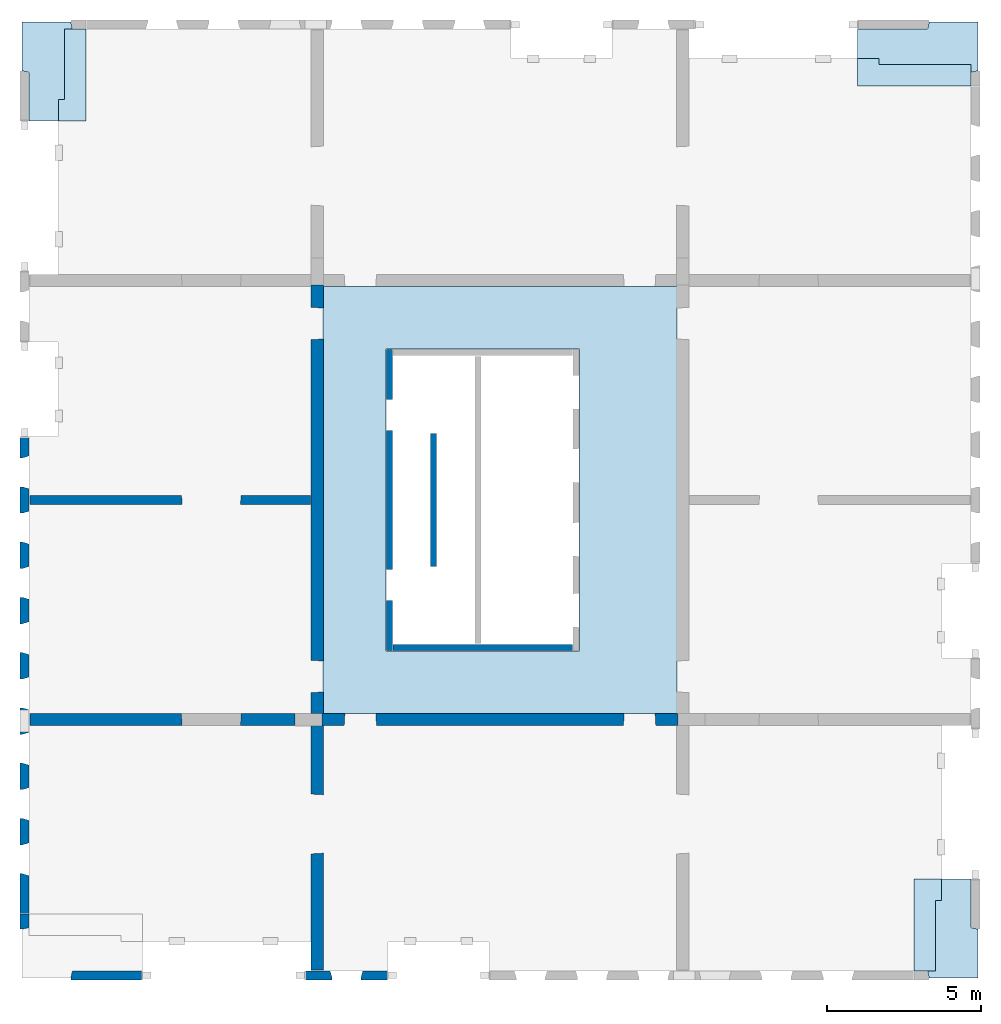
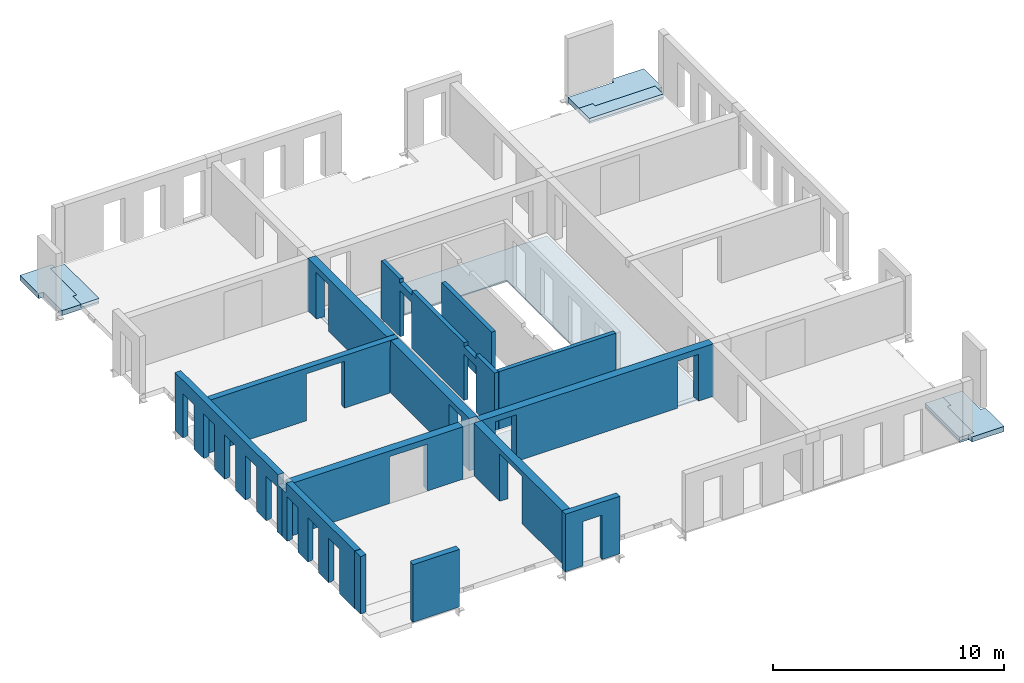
# One storey, part 2 of 4: 13 walls, 7 slabs, 27 openings.
"""IFC2X3 building model written with IfcOpenShell, lengths in millimetres."""

from ifc_helpers import new_model, entity, si_unit, converted_unit, derived_unit, direction, frame, frame_2d, origin, origin_2d_with_axis, place, context, subcontext, project, spatial, polyline, rectangle, outline, extrude, faceted_brep, material, layer, layer_set, layer_usage, type_object, element, save


model = new_model("IFC2X3")

# Units and contexts
model_context = context("Model", 3, precision=0.01, world=origin(), true_north=direction((6.12303176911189e-17, 1.0)))
body_context = subcontext(model_context, "Body", "Model", "MODEL_VIEW")
ifc_project = project(units=[si_unit("LENGTHUNIT", "METRE", prefix="MILLI"), si_unit("AREAUNIT", "SQUARE_METRE"), si_unit("VOLUMEUNIT", "CUBIC_METRE"), converted_unit("PLANEANGLEUNIT", "DEGREE", entity("IfcRatioMeasure", 0.0174532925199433), si_unit("PLANEANGLEUNIT", "RADIAN"), dimensions=[0, 0, 0, 0, 0, 0, 0]), si_unit("MASSUNIT", "GRAM", prefix="KILO"), derived_unit("MASSDENSITYUNIT", [(si_unit("MASSUNIT", "GRAM", prefix="KILO"), 1), (si_unit("LENGTHUNIT", "METRE"), -3)]), si_unit("TIMEUNIT", "SECOND"), si_unit("FREQUENCYUNIT", "HERTZ"), si_unit("THERMODYNAMICTEMPERATUREUNIT", "DEGREE_CELSIUS"), derived_unit("THERMALTRANSMITTANCEUNIT", [(si_unit("MASSUNIT", "GRAM", prefix="KILO"), 1), (si_unit("THERMODYNAMICTEMPERATUREUNIT", "KELVIN"), -1), (si_unit("TIMEUNIT", "SECOND"), -3)]), derived_unit("VOLUMETRICFLOWRATEUNIT", [(si_unit("LENGTHUNIT", "METRE"), 3), (si_unit("TIMEUNIT", "SECOND"), -1)]), si_unit("ELECTRICCURRENTUNIT", "AMPERE"), si_unit("ELECTRICVOLTAGEUNIT", "VOLT"), si_unit("POWERUNIT", "WATT"), si_unit("FORCEUNIT", "NEWTON", prefix="KILO"), si_unit("ILLUMINANCEUNIT", "LUX"), si_unit("LUMINOUSFLUXUNIT", "LUMEN"), si_unit("LUMINOUSINTENSITYUNIT", "CANDELA"), derived_unit("USERDEFINED", [(si_unit("MASSUNIT", "GRAM", prefix="KILO"), -1), (si_unit("LENGTHUNIT", "METRE"), -2), (si_unit("TIMEUNIT", "SECOND"), 3), (si_unit("LUMINOUSFLUXUNIT", "LUMEN"), 1)]), derived_unit("LINEARVELOCITYUNIT", [(si_unit("LENGTHUNIT", "METRE"), 1), (si_unit("TIMEUNIT", "SECOND"), -1)]), si_unit("PRESSUREUNIT", "PASCAL"), derived_unit("USERDEFINED", [(si_unit("LENGTHUNIT", "METRE"), -2), (si_unit("MASSUNIT", "GRAM", prefix="KILO"), 1), (si_unit("TIMEUNIT", "SECOND"), -2)])], contexts=[model_context])

# Site, building, storey
site_placement = place(None, origin())
site = spatial("IfcSite", under=ifc_project, at=site_placement, Name="Default", CompositionType="ELEMENT")
building_placement = place(site_placement, origin())
building = spatial("IfcBuilding", under=site, at=building_placement, Name="niet gebruiken", CompositionType="ELEMENT")
storey_placement = place(building_placement, frame((0.0, 0.0, 70020.0)))
storey = spatial("IfcBuildingStorey", under=building, at=storey_placement, Name="22 tweeëntwintigste verdieping", CompositionType="ELEMENT", Elevation=70020.0000000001)

# Slabs
ifc_material_1 = material(Name="NLRS_f2_beton prefab")
ifc_layer_1 = layer(ifc_material_1, 270.0)
ifc_layer_set_1 = layer_set([ifc_layer_1], Name="Floor:NLRS_23.22_FL_beton prefab d=270 3D element_gen")
ifc_layer_usage_1 = layer_usage(ifc_layer_set_1, "AXIS3", "POSITIVE", 0.0)
slab_1_placement = place(storey_placement, origin())
element("IfcSlab", 1, at=slab_1_placement, inside=storey, material=ifc_layer_usage_1, Name="Floor:NLRS_23.22_FL_beton prefab d=270 3D element_gen", ObjectType="Floor:NLRS_23.22_FL_beton prefab d=270 3D element_gen", PredefinedType="LANDING", context=body_context, shape_type="SweptSolid", body=[
    extrude(outline(polyline([(-322.675940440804, -982.471394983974), (1267.47139498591, -982.471394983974), (1267.47139498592, 607.675940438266), (1034.47139498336, 655.152429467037), (1034.47139498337, 1100.5286050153), (-1955.52860501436, 1100.52860501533), (-1955.52860501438, -749.471394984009), (-370.152429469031, -749.471394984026), (-322.675940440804, -982.471394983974)])), frame((127169.471394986, 31795.5286050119, -90.0), z_axis=(0.0, 0.0, -1.0), x_axis=(0.0, 1.0, 0.0)), (0.0, 0.0, 1.0), 269.999999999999),
])
ifc_material_2 = material(Name="NLRS_f2_beton ihwg")
ifc_layer_2 = layer(ifc_material_2, 170.0)
ifc_layer_set_2 = layer_set([ifc_layer_2], Name="Floor:NLRS_23.21_FL_beton ihwg d=170_gen")
ifc_layer_usage_2 = layer_usage(ifc_layer_set_2, "AXIS3", "POSITIVE", 0.0)
slab_2_placement = place(storey_placement, origin())
element("IfcSlab", 2, at=slab_2_placement, inside=storey, material=ifc_layer_usage_2, Name="Floor:NLRS_23.21_FL_beton ihwg d=170_gen", ObjectType="Floor:NLRS_23.21_FL_beton ihwg d=170_gen", PredefinedType="FLOOR", context=body_context, shape_type="SweptSolid", body=[
    extrude(outline(polyline([(-1230.0, -366.666666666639), (-530.0, -366.666666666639), (-530.0, -166.66666666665), (1760.0, -166.666666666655), (1760.0, 533.333333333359), (-1230.0, 533.333333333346), (-1230.0, -366.666666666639)])), frame((127736.666666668, 31070.0, -90.0), z_axis=(0.0, 0.0, -1.0), x_axis=(0.0, 1.0, 0.0)), (0.0, 0.0, 1.0), 169.999999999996),
])
ifc_layer_usage_3 = layer_usage(ifc_layer_set_1, "AXIS3", "POSITIVE", 0.0)
slab_3_placement = place(storey_placement, origin())
element("IfcSlab", 3, at=slab_3_placement, inside=storey, material=ifc_layer_usage_3, Name="Floor:NLRS_23.22_FL_beton prefab d=270 3D element_gen", ObjectType="Floor:NLRS_23.22_FL_beton prefab d=270 3D element_gen", PredefinedType="LANDING", context=body_context, shape_type="SweptSolid", body=[
    extrude(outline(polyline([(-1034.47139498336, -1100.52860501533), (1955.52860501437, -1100.52860501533), (1955.52860501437, 749.471394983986), (370.152429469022, 749.471394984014), (322.675940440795, 982.471394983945), (-1267.47139498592, 982.471394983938), (-1267.47139498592, -607.675940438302), (-1034.47139498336, -655.152429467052), (-1034.47139498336, -1100.52860501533)])), frame((156330.528605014, 3204.47139498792, -90.0), z_axis=(0.0, 0.0, -1.0), x_axis=(0.0, 1.0, 0.0)), (0.0, 0.0, 1.0), 269.999999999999),
])
ifc_layer_usage_4 = layer_usage(ifc_layer_set_2, "AXIS3", "POSITIVE", 0.0)
slab_4_placement = place(storey_placement, origin())
element("IfcSlab", 4, at=slab_4_placement, inside=storey, material=ifc_layer_usage_4, Name="Floor:NLRS_23.21_FL_beton ihwg d=170_gen", ObjectType="Floor:NLRS_23.21_FL_beton ihwg d=170_gen", PredefinedType="FLOOR", context=body_context, shape_type="SweptSolid", body=[
    extrude(outline(polyline([(-1760.0, -533.33333333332), (1230.0, -533.33333333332), (1230.0, 366.666666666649), (530.0, 366.666666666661), (530.0, 166.666666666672), (-1760.0, 166.666666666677), (-1760.0, -533.33333333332)])), frame((155763.333333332, 3930.0, -90.0), z_axis=(0.0, 0.0, -1.0), x_axis=(0.0, 1.0, 0.0)), (0.0, 0.0, 1.0), 169.999999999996),
])
ifc_layer_usage_5 = layer_usage(ifc_layer_set_1, "AXIS3", "POSITIVE", 0.0)
slab_5_placement = place(storey_placement, origin())
element("IfcSlab", 5, at=slab_5_placement, inside=storey, material=ifc_layer_usage_5, Name="Floor:NLRS_23.22_FL_beton prefab d=270 3D element_gen", ObjectType="Floor:NLRS_23.22_FL_beton prefab d=270 3D element_gen", PredefinedType="LANDING", context=body_context, shape_type="SweptSolid", body=[
    extrude(outline(polyline([(-1100.52860501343, -2480.52860501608), (749.471394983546, -2480.52860501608), (749.471394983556, -195.152429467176), (982.471394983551, -147.675940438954), (982.471394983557, 1442.47139498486), (-607.675940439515, 1442.47139498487), (-655.152429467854, 1209.47139498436), (-1100.52860501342, 1209.47139498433), (-1100.52860501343, -2480.52860501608)])), frame((155870.528605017, 32080.5286050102, -90.0), z_axis=(0.0, 0.0, -1.0), x_axis=(0.0, 1.0, 0.0)), (0.0, 0.0, 1.0), 269.999999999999),
])
ifc_layer_usage_6 = layer_usage(ifc_layer_set_2, "AXIS3", "POSITIVE", 0.0)
slab_6_placement = place(storey_placement, origin())
element("IfcSlab", 6, at=slab_6_placement, inside=storey, material=ifc_layer_usage_6, Name="Floor:NLRS_23.21_FL_beton ihwg d=170_gen", ObjectType="Floor:NLRS_23.21_FL_beton ihwg d=170_gen", PredefinedType="FLOOR", context=body_context, shape_type="SweptSolid", body=[
    extrude(outline(polyline([(-533.333333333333, -1463.33333333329), (366.666666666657, -1463.33333333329), (366.666666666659, -763.333333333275), (166.66666666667, -763.333333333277), (166.666666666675, 2226.66666666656), (-533.333333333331, 2226.66666666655), (-533.333333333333, -1463.33333333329)])), frame((154853.333333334, 31513.3333333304, -90.0), z_axis=(0.0, 0.0, -1.0), x_axis=(0.0, 1.0, 0.0)), (0.0, 0.0, 1.0), 169.999999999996),
])

# Slab, opening
ifc_layer_3 = layer(ifc_material_1, 60.0)
ifc_layer_set_3 = layer_set([ifc_layer_3], Name="Floor:NLRS_23.21_FL_breedplaat d=60_gen")
ifc_layer_usage_7 = layer_usage(ifc_layer_set_3, "AXIS3", "POSITIVE", 0.0)
slab_7_placement = place(storey_placement, frame((135990.0, 10540.0, -320.0)))
slab_7 = element("IfcSlab", 7, at=slab_7_placement, inside=storey, material=ifc_layer_usage_7, Name="Floor:NLRS_23.21_FL_breedplaat d=60_gen", ObjectType="Floor:NLRS_23.21_FL_breedplaat d=60_gen", PredefinedType="FLOOR", context=body_context, shape_type="SweptSolid", body=[
    extrude(rectangle(XDim=13919.9999999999, YDim=11520.0, at=frame_2d((0.0, 0.0), x_axis=(0.0, -1.0))), frame((5760.0, 6960.0, 60.0), z_axis=(0.0, 0.0, -1.0), x_axis=(-1.0, 0.0, 0.0)), (0.0, 0.0, 1.0), 60.0000000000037),
])
opening_1_placement = place(slab_7_placement, frame((5200.0, 6960.0, 60.0)))
element("IfcOpeningElement", 8, at=opening_1_placement, cuts=slab_7, Name="Floor:NLRS_23.21_FL_breedplaat d=60_gen:2", ObjectType="Opening", context=body_context, shape_type="SweptSolid", body=[
    extrude(rectangle(XDim=9820.0, YDim=6299.99999999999, at=origin_2d_with_axis()), frame((0.0, 0.0, 0.0), z_axis=(0.0, 0.0, -1.0), x_axis=(0.0, -1.0, 0.0)), (0.0, 0.0, 1.0), 60.0000000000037),
])

# Wall, openings
ifc_layer_4 = layer(ifc_material_1, 200.0)
ifc_layer_set_4 = layer_set([ifc_layer_4], Name="Basic Wall:NLRS_22.21_WA_beton prefab d=200_gen")
ifc_layer_usage_8 = layer_usage(ifc_layer_set_4, "AXIS2", "NEGATIVE", 100.0)
wall_type_1 = type_object("IfcWallType", Name="Basic Wall:NLRS_22.21_WA_beton prefab d=200_gen", PredefinedType="STANDARD", material=ifc_layer_set_4)
wall_1_placement = place(storey_placement, frame((138150.0, 22400.0, -50.0), z_axis=(0.0, 0.0, 1.0), x_axis=(0.0, -1.0, 0.0)))
wall_1 = element("IfcWallStandardCase", 9, at=wall_1_placement, inside=storey, type_object=wall_type_1, material=ifc_layer_usage_8, Name="Basic Wall:NLRS_22.21_WA_beton prefab d=200_gen", ObjectType="Basic Wall:NLRS_22.21_WA_beton prefab d=200_gen", context=body_context, shape_type="SweptSolid", body=[
    extrude(rectangle(XDim=9800.0, YDim=199.999999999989, at=frame_2d((4900.0, 3.76587649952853e-13), x_axis=(-1.0, 0.0))), origin(), (0.0, 0.0, 1.0), 3040.0),
])
opening_2_placement = place(wall_1_placement, origin())
element("IfcOpeningElement", 10, at=opening_2_placement, cuts=wall_1, Name="Basic Wall:NLRS_22.21_WA_beton prefab d=200_gen", ObjectType="Opening", context=body_context, shape_type="SweptSolid", body=[
    extrude(rectangle(XDim=199.999999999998, YDim=1044.0, at=frame_2d((4.33431068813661e-12, 0.0), x_axis=(1.0, 0.0))), frame((7672.0, -100.0, 2940.0), z_axis=(0.0, 1.0, 0.0), x_axis=(0.0, 0.0, -1.0)), (0.0, 0.0, 1.0), 199.999999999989),
])
opening_3_placement = place(wall_1_placement, origin())
element("IfcOpeningElement", 11, at=opening_3_placement, cuts=wall_1, Name="Basic Wall:NLRS_22.21_WA_beton prefab d=200_gen", ObjectType="Opening", context=body_context, shape_type="SweptSolid", body=[
    extrude(rectangle(XDim=199.999999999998, YDim=1044.0, at=frame_2d((4.33431068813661e-12, 2.1600499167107e-12), x_axis=(1.0, 0.0))), frame((2128.0, -100.0, 2940.0), z_axis=(0.0, 1.0, 0.0), x_axis=(0.0, 0.0, -1.0)), (0.0, 0.0, 1.0), 199.999999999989),
])
opening_4_placement = place(wall_1_placement, origin())
element("IfcOpeningElement", 12, at=opening_4_placement, cuts=wall_1, Name="Basic Wall:NLRS_22.21_WA_beton prefab d=200_gen", ObjectType="Opening", context=body_context, shape_type="SweptSolid", body=[
    extrude(rectangle(XDim=2435.00000000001, YDim=1015.99999999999, at=frame_2d((-4.32009983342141e-12, 1.10844666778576e-12), x_axis=(1.0, 0.0))), frame((7672.0, -100.0, 1217.50000000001), z_axis=(0.0, 1.0, 0.0), x_axis=(0.0, 0.0, -1.0)), (0.0, 0.0, 1.0), 199.999999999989),
])
opening_5_placement = place(wall_1_placement, origin())
element("IfcOpeningElement", 13, at=opening_5_placement, cuts=wall_1, Name="Basic Wall:NLRS_22.21_WA_beton prefab d=200_gen", ObjectType="Opening", context=body_context, shape_type="SweptSolid", body=[
    extrude(rectangle(XDim=2435.00000000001, YDim=1015.99999999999, at=frame_2d((-4.32009983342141e-12, -2.18847162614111e-12), x_axis=(1.0, 0.0))), frame((2128.0, -100.0, 1217.50000000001), z_axis=(0.0, 1.0, 0.0), x_axis=(0.0, 0.0, -1.0)), (0.0, 0.0, 1.0), 199.999999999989),
])

# Walls
ifc_layer_usage_9 = layer_usage(ifc_layer_set_4, "AXIS2", "NEGATIVE", 100.0)
wall_2_placement = place(storey_placement, frame((139590.0, 19660.0, -50.0), z_axis=(0.0, 0.0, 1.0), x_axis=(0.0, -1.0, 0.0)))
element("IfcWallStandardCase", 14, at=wall_2_placement, inside=storey, type_object=wall_type_1, material=ifc_layer_usage_9, Name="Basic Wall:NLRS_22.21_WA_beton prefab d=200_gen", ObjectType="Basic Wall:NLRS_22.21_WA_beton prefab d=200_gen", context=body_context, shape_type="SweptSolid", body=[
    extrude(rectangle(XDim=4320.00000000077, YDim=199.999999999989, at=frame_2d((2160.00000000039, 0.0), x_axis=(-1.0, 0.0))), origin(), (0.0, 0.0, 1.0), 3040.0),
])
ifc_layer_usage_10 = layer_usage(ifc_layer_set_4, "AXIS2", "NEGATIVE", 100.0)
wall_3_placement = place(storey_placement, frame((138270.0, 12700.0, -50.0)))
element("IfcWallStandardCase", 15, at=wall_3_placement, inside=storey, type_object=wall_type_1, material=ifc_layer_usage_10, Name="Basic Wall:NLRS_22.21_WA_beton prefab d=200_gen", ObjectType="Basic Wall:NLRS_22.21_WA_beton prefab d=200_gen", context=body_context, shape_type="SweptSolid", body=[
    extrude(rectangle(XDim=5839.99999999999, YDim=199.999999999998, at=frame_2d((2919.99999999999, -6.82121026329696e-13), x_axis=(-1.0, 0.0))), origin(), (0.0, 0.0, 1.0), 3040.0),
])

# Wall, openings
ifc_layer_5 = layer(ifc_material_1, 300.0)
ifc_layer_set_5 = layer_set([ifc_layer_5], Name="Basic Wall:NLRS_22.21_WA_beton prefab d=300_gen")
ifc_layer_usage_11 = layer_usage(ifc_layer_set_5, "AXIS2", "NEGATIVE", 150.0)
wall_type_2 = type_object("IfcWallType", Name="Basic Wall:NLRS_22.21_WA_beton prefab d=300_gen", PredefinedType="STANDARD", material=ifc_layer_set_5)
wall_4_placement = place(storey_placement, frame((126440.0, 17500.0, -70.0)))
wall_4 = element("IfcWallStandardCase", 16, at=wall_4_placement, inside=storey, type_object=wall_type_2, material=ifc_layer_usage_11, Name="Basic Wall:NLRS_22.21_WA_beton prefab d=300_gen", ObjectType="Basic Wall:NLRS_22.21_WA_beton prefab d=300_gen", context=body_context, shape_type="SweptSolid", body=[
    extrude(rectangle(XDim=9559.9999999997, YDim=300.000000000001, at=frame_2d((4779.99999999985, -5.54223333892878e-13), x_axis=(-1.0, 0.0))), origin(), (0.0, 0.0, 1.0), 2769.99999999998),
])
opening_6_placement = place(wall_4_placement, frame((4942.0, -150.0, 0.0)))
element("IfcOpeningElement", 17, at=opening_6_placement, cuts=wall_4, Name="Basic Wall:NLRS_22.21_WA_beton prefab d=300_gen", ObjectType="Opening", context=body_context, shape_type="Brep", body=[
    faceted_brep([(1918.0, 0.0, 2470.0), (18.0, 0.0, 2470.0), (18.0, 0.0, 0.0), (1918.0, 0.0, 0.0), (1936.0, 300.0, 2488.0), (1936.0, 300.0, 0.0), (0.0, 300.0, 0.0), (0.0, 300.0, 2488.0)], [[[0, 1, 2, 3]], [[4, 5, 6, 7]], [[4, 7, 1, 0]], [[7, 6, 2, 1]], [[6, 5, 3, 2]], [[5, 4, 0, 3]]]),
])
opening_7_placement = place(wall_4_placement, origin())
element("IfcOpeningElement", 18, at=opening_7_placement, cuts=wall_4, Name="Basic Wall:NLRS_22.21_WA_beton prefab d=300_gen", ObjectType="Opening", context=body_context, shape_type="SweptSolid", body=[
    extrude(rectangle(XDim=2439.99999999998, YDim=420.000000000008, at=frame_2d((0.0, -8.64019966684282e-12), x_axis=(0.0, 1.0))), frame((9350.0, 150.0, 1220.0), z_axis=(0.0, -1.0, 0.0), x_axis=(1.0, 0.0, 0.0)), (0.0, 0.0, 1.0), 300.0),
])

# Wall, opening
ifc_layer_6 = layer(ifc_material_1, 400.0)
ifc_layer_set_6 = layer_set([ifc_layer_6], Name="Basic Wall:NLRS_22.21_WA_beton prefab d=400_gen")
ifc_layer_usage_12 = layer_usage(ifc_layer_set_6, "AXIS2", "NEGATIVE", 200.0)
wall_type_3 = type_object("IfcWallType", Name="Basic Wall:NLRS_22.21_WA_beton prefab d=400_gen", PredefinedType="STANDARD", material=ifc_layer_set_6)
wall_5_placement = place(storey_placement, frame((135800.0, 10150.0, -70.0), z_axis=(0.0, 0.0, 1.0), x_axis=(0.0, -1.0, 0.0)))
wall_5 = element("IfcWallStandardCase", 19, at=wall_5_placement, inside=storey, type_object=wall_type_3, material=ifc_layer_usage_12, Name="Basic Wall:NLRS_22.21_WA_beton prefab d=400_gen", ObjectType="Basic Wall:NLRS_22.21_WA_beton prefab d=400_gen", context=body_context, shape_type="SweptSolid", body=[
    extrude(rectangle(XDim=7959.99999999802, YDim=400.000000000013, at=frame_2d((3979.99999999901, 4.54747350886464e-13), x_axis=(-1.0, 0.0))), origin(), (0.0, 0.0, 1.0), 2770.00000000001),
])
opening_8_placement = place(wall_5_placement, frame((4174.0, -200.0, 0.0)))
element("IfcOpeningElement", 20, at=opening_8_placement, cuts=wall_5, Name="Basic Wall:NLRS_22.21_WA_beton prefab d=400_gen", ObjectType="Opening", context=body_context, shape_type="Brep", body=[
    faceted_brep([(-24.0, 400.0, 2470.0), (-24.0, 400.0, 0.0), (-1924.0, 400.0, 0.0), (-1924.0, 400.0, 2470.0), (0.0, 0.0, 2494.0), (-1948.0, 0.0, 2494.0), (-1948.0, 0.0, 0.0), (0.0, 0.0, 0.0)], [[[0, 1, 2, 3]], [[4, 5, 6, 7]], [[4, 0, 3, 5]], [[5, 3, 2, 6]], [[6, 2, 1, 7]], [[7, 1, 0, 4]]]),
])

# Wall, openings
ifc_layer_usage_13 = layer_usage(ifc_layer_set_6, "AXIS2", "NEGATIVE", 200.0)
wall_6_placement = place(storey_placement, frame((135948.750788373, 10350.0, -70.0)))
wall_6 = element("IfcWallStandardCase", 21, at=wall_6_placement, inside=storey, type_object=wall_type_3, material=ifc_layer_usage_13, Name="Basic Wall:NLRS_22.21_WA_beton prefab d=400_gen", ObjectType="Basic Wall:NLRS_22.21_WA_beton prefab d=400_gen", context=body_context, shape_type="SweptSolid", body=[
    extrude(rectangle(XDim=11601.2492116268, YDim=400.0, at=frame_2d((5800.62460581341, 1.70530256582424e-13), x_axis=(-1.0, 0.0))), origin(), (0.0, 0.0, 1.0), 2770.00000000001),
])
opening_9_placement = place(wall_6_placement, frame((727.249211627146, -200.0, 0.0)))
element("IfcOpeningElement", 22, at=opening_9_placement, cuts=wall_6, Name="Basic Wall:NLRS_22.21_WA_beton prefab d=400_gen", ObjectType="Opening", context=body_context, shape_type="Brep", body=[
    faceted_brep([(0.0, 0.0, 2472.0), (24.0, 400.0, 2448.0), (24.0, 400.0, 0.0), (0.0, 0.0, 0.0), (1030.0, 400.0, 0.0), (1054.0, 0.0, 0.0), (1030.0, 400.0, 2448.0), (1054.0, 0.0, 2472.0)], [[[0, 1, 2, 3]], [[3, 2, 4, 5]], [[6, 4, 2, 1]], [[7, 0, 3, 5]], [[7, 6, 1, 0]], [[5, 4, 6, 7]]]),
])
opening_10_placement = place(wall_6_placement, frame((9821.24921162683, -200.0, 0.0)))
element("IfcOpeningElement", 23, at=opening_10_placement, cuts=wall_6, Name="Basic Wall:NLRS_22.21_WA_beton prefab d=400_gen", ObjectType="Opening", context=body_context, shape_type="Brep", body=[
    faceted_brep([(0.0, 0.0, 2472.0), (24.0, 400.0, 2448.0), (24.0, 400.0, 0.0), (0.0, 0.0, 0.0), (1030.0, 400.0, 0.0), (1054.0, 0.0, 0.0), (1030.0, 400.0, 2448.0), (1054.0, 0.0, 2472.0)], [[[0, 1, 2, 3]], [[3, 2, 4, 5]], [[6, 4, 2, 1]], [[7, 0, 3, 5]], [[7, 6, 1, 0]], [[5, 4, 6, 7]]]),
])

# Wall, opening
ifc_layer_usage_14 = layer_usage(ifc_layer_set_6, "AXIS2", "NEGATIVE", 200.0)
wall_7_placement = place(storey_placement, frame((126440.0, 10350.0, -70.0)))
wall_7 = element("IfcWallStandardCase", 24, at=wall_7_placement, inside=storey, type_object=wall_type_3, material=ifc_layer_usage_14, Name="Basic Wall:NLRS_22.21_WA_beton prefab d=400_gen", ObjectType="Basic Wall:NLRS_22.21_WA_beton prefab d=400_gen", context=body_context, shape_type="SweptSolid", body=[
    extrude(rectangle(XDim=8628.75078837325, YDim=400.0, at=frame_2d((4314.37539418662, -2.8421709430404e-13), x_axis=(-1.0, 0.0))), origin(), (0.0, 0.0, 1.0), 2770.00000000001),
])
opening_11_placement = place(wall_7_placement, frame((4936.0, -200.0, 0.0)))
element("IfcOpeningElement", 25, at=opening_11_placement, cuts=wall_7, Name="Basic Wall:NLRS_22.21_WA_beton prefab d=400_gen", ObjectType="Opening", context=body_context, shape_type="Brep", body=[
    faceted_brep([(1924.0, 0.0, 2470.0), (24.0, 0.0, 2470.0), (24.0, 0.0, 0.0), (1924.0, 0.0, 0.0), (1948.0, 400.0, 2494.0), (1948.0, 400.0, 0.0), (0.0, 400.0, 0.0), (0.0, 400.0, 2494.0)], [[[0, 1, 2, 3]], [[4, 5, 6, 7]], [[4, 7, 1, 0]], [[7, 6, 2, 1]], [[6, 5, 3, 2]], [[5, 4, 0, 3]]]),
])

# Wall, openings
ifc_layer_usage_15 = layer_usage(ifc_layer_set_6, "AXIS2", "NEGATIVE", 200.0)
wall_8_placement = place(storey_placement, frame((135800.0, 24500.0, -70.0), z_axis=(0.0, 0.0, 1.0), x_axis=(0.0, -1.0, 0.0)))
wall_8 = element("IfcWallStandardCase", 26, at=wall_8_placement, inside=storey, type_object=wall_type_3, material=ifc_layer_usage_15, Name="Basic Wall:NLRS_22.21_WA_beton prefab d=400_gen", ObjectType="Basic Wall:NLRS_22.21_WA_beton prefab d=400_gen", context=body_context, shape_type="SweptSolid", body=[
    extrude(rectangle(XDim=13951.193558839, YDim=400.000000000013, at=frame_2d((6975.59677941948, 2.8421709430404e-14), x_axis=(-1.0, 0.0))), origin(), (0.0, 0.0, 1.0), 2770.00000000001),
])
opening_12_placement = place(wall_8_placement, frame((13274.0, -200.0, 0.0)))
element("IfcOpeningElement", 27, at=opening_12_placement, cuts=wall_8, Name="Basic Wall:NLRS_22.21_WA_beton prefab d=400_gen", ObjectType="Opening", context=body_context, shape_type="Brep", body=[
    faceted_brep([(-1054.0, 0.0, 2472.0), (-1030.0, 400.0, 2448.0), (-1030.0, 400.0, 0.0), (-1054.0, 0.0, 0.0), (-24.0, 400.0, 0.0), (0.0, 0.0, 0.0), (-24.0, 400.0, 2448.0), (0.0, 0.0, 2472.0)], [[[0, 1, 2, 3]], [[3, 2, 4, 5]], [[6, 4, 2, 1]], [[7, 0, 3, 5]], [[7, 6, 1, 0]], [[5, 4, 6, 7]]]),
])
opening_13_placement = place(wall_8_placement, frame((1780.0, -200.0, 0.0)))
element("IfcOpeningElement", 28, at=opening_13_placement, cuts=wall_8, Name="Basic Wall:NLRS_22.21_WA_beton prefab d=400_gen", ObjectType="Opening", context=body_context, shape_type="Brep", body=[
    faceted_brep([(-1054.0, 0.0, 2472.0), (-1030.0, 400.0, 2448.0), (-1030.0, 400.0, 0.0), (-1054.0, 0.0, 0.0), (-24.0, 400.0, 0.0), (0.0, 0.0, 0.0), (-24.0, 400.0, 2448.0), (0.0, 0.0, 2472.0)], [[[0, 1, 2, 3]], [[3, 2, 4, 5]], [[6, 4, 2, 1]], [[7, 0, 3, 5]], [[7, 6, 1, 0]], [[5, 4, 6, 7]]]),
])
opening_14_placement = place(wall_8_placement, origin())
element("IfcOpeningElement", 29, at=opening_14_placement, cuts=wall_8, Name="Basic Wall:NLRS_22.21_WA_beton prefab d=400_gen", ObjectType="Opening", context=body_context, shape_type="SweptSolid", body=[
    extrude(rectangle(XDim=350.000000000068, YDim=339.999999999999, at=frame_2d((-1.08002495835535e-12, -4.33431068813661e-12), x_axis=(0.0, 1.0))), frame((7000.0, 200.0, 2595.0), z_axis=(0.0, -1.0, 0.0), x_axis=(-1.0, 0.0, 0.0)), (0.0, 0.0, 1.0), 400.0),
])

# Wall, opening
ifc_layer_7 = layer(ifc_material_1, 300.0)
ifc_layer_set_7 = layer_set([ifc_layer_7], Name="Basic Wall:NLRS_21.21_WA_beton prefab d=300/320_gen")
ifc_layer_usage_16 = layer_usage(ifc_layer_set_7, "AXIS2", "NEGATIVE", 150.0)
wall_type_4 = type_object("IfcWallType", Name="Basic Wall:NLRS_21.21_WA_beton prefab d=300/320_gen", PredefinedType="STANDARD", material=ifc_layer_set_7)
wall_9_placement = place(storey_placement, frame((138110.0, 2020.0, -50.0), z_axis=(0.0, 0.0, 1.0), x_axis=(-1.0, 0.0, 0.0)))
wall_9 = element("IfcWallStandardCase", 30, at=wall_9_placement, inside=storey, type_object=wall_type_4, material=ifc_layer_usage_16, Name="Basic Wall:NLRS_21.21_WA_beton prefab d=300/320_gen", ObjectType="Basic Wall:NLRS_21.21_WA_beton prefab d=300/320_gen", context=body_context, shape_type="SweptSolid", body=[
    extrude(rectangle(XDim=2720.00000000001, YDim=300.0, at=frame_2d((1360.0, -8.5265128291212e-14), x_axis=(-1.0, 0.0))), origin(), (0.0, 0.0, 1.0), 3040.0),
])
opening_15_placement = place(wall_9_placement, frame((1895.0, 150.0, -20.0)))
element("IfcOpeningElement", 31, at=opening_15_placement, cuts=wall_9, Name="Basic Wall:NLRS_21.21_WA_beton prefab d=300/320_gen", ObjectType="Opening", context=body_context, shape_type="Brep", body=[
    faceted_brep([(-1070.0, -300.0, 2405.0), (-1070.0, -300.0, 0.0), (0.0, -300.0, 0.0), (0.0, -300.0, 2405.0), (-65.0, -81.0, 2370.0), (-1005.0, -81.0, 2370.0), (-65.0, -81.0, 0.0), (-1005.0, -81.0, 0.0), (-1005.0, 0.0, 0.0), (-65.0, 0.0, 0.0), (-1005.0, 0.0, 2370.0), (-65.0, 0.0, 2370.0)], [[[0, 1, 2, 3]], [[3, 4, 5, 0]], [[2, 6, 4, 3]], [[1, 7, 8, 9, 6, 2]], [[0, 5, 7, 1]], [[10, 11, 9, 8]], [[10, 5, 4, 11]], [[11, 4, 6, 9]], [[8, 7, 5, 10]]]),
])

# Wall, openings
ifc_layer_usage_17 = layer_usage(ifc_layer_set_7, "AXIS2", "NEGATIVE", 150.0)
wall_10_placement = place(storey_placement, frame((126270.0, 4040.0, -50.0), z_axis=(0.0, 0.0, 1.0), x_axis=(0.0, 1.0, 0.0)))
wall_10 = element("IfcWallStandardCase", 32, at=wall_10_placement, inside=storey, type_object=wall_type_4, material=ifc_layer_usage_17, Name="Basic Wall:NLRS_21.21_WA_beton prefab d=300/320_gen", ObjectType="Basic Wall:NLRS_21.21_WA_beton prefab d=300/320_gen", context=body_context, shape_type="SweptSolid", body=[
    extrude(rectangle(XDim=6249.99999999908, YDim=300.000000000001, at=frame_2d((3124.99999999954, 0.0), x_axis=(-1.0, 0.0))), origin(), (0.0, 0.0, 1.0), 3039.99999999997),
])
opening_16_placement = place(wall_10_placement, frame((1225.0, 150.0, -20.0)))
element("IfcOpeningElement", 33, at=opening_16_placement, cuts=wall_10, Name="Basic Wall:NLRS_21.21_WA_beton prefab d=300/320_gen", ObjectType="Opening", context=body_context, shape_type="Brep", body=[
    faceted_brep([(0.0, -300.0, 2405.0), (0.0, -300.0, 0.0), (1070.0, -300.0, 0.0), (1070.0, -300.0, 2405.0), (1005.0, -81.0, 2370.0), (65.0, -81.0, 2370.0), (1005.0, -81.0, 0.0), (65.0, -81.0, 0.0), (65.0, 0.0, 0.0), (1005.0, 0.0, 0.0), (65.0, 0.0, 2370.0), (1005.0, 0.0, 2370.0)], [[[0, 1, 2, 3]], [[3, 4, 5, 0]], [[2, 6, 4, 3]], [[1, 7, 8, 9, 6, 2]], [[0, 5, 7, 1]], [[10, 11, 9, 8]], [[10, 5, 4, 11]], [[11, 4, 6, 9]], [[8, 7, 5, 10]]]),
])
opening_17_placement = place(wall_10_placement, frame((3025.0, 150.0, -20.0)))
element("IfcOpeningElement", 34, at=opening_17_placement, cuts=wall_10, Name="Basic Wall:NLRS_21.21_WA_beton prefab d=300/320_gen", ObjectType="Opening", context=body_context, shape_type="Brep", body=[
    faceted_brep([(0.0, -300.0, 2405.0), (0.0, -300.0, 0.0), (1070.0, -300.0, 0.0), (1070.0, -300.0, 2405.0), (1005.0, -81.0, 2370.0), (65.0, -81.0, 2370.0), (1005.0, -81.0, 0.0), (65.0, -81.0, 0.0), (65.0, 0.0, 0.0), (1005.0, 0.0, 0.0), (65.0, 0.0, 2370.0), (1005.0, 0.0, 2370.0)], [[[0, 1, 2, 3]], [[3, 4, 5, 0]], [[2, 6, 4, 3]], [[1, 7, 8, 9, 6, 2]], [[0, 5, 7, 1]], [[10, 11, 9, 8]], [[10, 5, 4, 11]], [[11, 4, 6, 9]], [[8, 7, 5, 10]]]),
])
opening_18_placement = place(wall_10_placement, frame((4825.0, 150.0, -20.0)))
element("IfcOpeningElement", 35, at=opening_18_placement, cuts=wall_10, Name="Basic Wall:NLRS_21.21_WA_beton prefab d=300/320_gen", ObjectType="Opening", context=body_context, shape_type="Brep", body=[
    faceted_brep([(0.0, -300.0, 2405.0), (0.0, -300.0, 0.0), (1070.0, -300.0, 0.0), (1070.0, -300.0, 2405.0), (1005.0, -81.0, 2370.0), (65.0, -81.0, 2370.0), (1005.0, -81.0, 0.0), (65.0, -81.0, 0.0), (65.0, 0.0, 0.0), (1005.0, 0.0, 0.0), (65.0, 0.0, 2370.0), (1005.0, 0.0, 2370.0)], [[[0, 1, 2, 3]], [[3, 4, 5, 0]], [[2, 6, 4, 3]], [[1, 7, 8, 9, 6, 2]], [[0, 5, 7, 1]], [[10, 11, 9, 8]], [[10, 5, 4, 11]], [[11, 4, 6, 9]], [[8, 7, 5, 10]]]),
])
opening_19_placement = place(wall_10_placement, origin())
element("IfcOpeningElement", 36, at=opening_19_placement, cuts=wall_10, Name="Basic Wall:NLRS_21.21_WA_beton prefab d=300/320_gen", ObjectType="Opening", context=body_context, shape_type="SweptSolid", body=[
    extrude(rectangle(XDim=534.99999999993, YDim=344.999999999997, at=frame_2d((0.0, 1.08002495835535e-12), x_axis=(1.0, 0.0))), frame((6077.49999999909, 150.0, 2772.50000000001), z_axis=(0.0, -1.0, 0.0), x_axis=(0.0, 0.0, 1.0)), (0.0, 0.0, 1.0), 300.0),
])

# Wall, opening
ifc_layer_usage_18 = layer_usage(ifc_layer_set_7, "AXIS2", "NEGATIVE", 150.0)
wall_11_placement = place(storey_placement, frame((130110.0, 2020.0, -50.0), z_axis=(0.0, 0.0, 1.0), x_axis=(-1.0, 0.0, 0.0)))
wall_11 = element("IfcWallStandardCase", 37, at=wall_11_placement, inside=storey, type_object=wall_type_4, material=ifc_layer_usage_18, Name="Basic Wall:NLRS_21.21_WA_beton prefab d=300/320_gen", ObjectType="Basic Wall:NLRS_21.21_WA_beton prefab d=300/320_gen", context=body_context, shape_type="SweptSolid", body=[
    extrude(rectangle(XDim=2330.00000000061, YDim=300.0, at=frame_2d((1165.00000000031, -5.6843418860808e-14), x_axis=(-1.0, 0.0))), origin(), (0.0, 0.0, 1.0), 3040.0),
])
opening_20_placement = place(wall_11_placement, frame((2330.0, 69.0, 0.0)))
element("IfcOpeningElement", 38, at=opening_20_placement, cuts=wall_11, Name="Basic Wall:NLRS_21.21_WA_beton prefab d=300/320_gen", ObjectType="Opening", context=body_context, shape_type="Brep", body=[
    faceted_brep([(0.0, -319.0, 3040.0), (0.0, 0.0, 3040.0), (-65.0, -319.0, 3040.0), (0.0, -319.0, 0.0), (-65.0, -319.0, 0.0), (0.0, 0.0, 0.0)], [[[0, 1, 2]], [[3, 4, 5]], [[2, 4, 3, 0]], [[0, 3, 5, 1]], [[1, 5, 4, 2]]]),
])

ifc_layer_usage_19 = layer_usage(ifc_layer_set_7, "AXIS2", "NEGATIVE", 150.0)
wall_12_placement = place(storey_placement, frame((126270.0, 3530.0, -50.0), z_axis=(0.0, 0.0, 1.0), x_axis=(0.0, 1.0, 0.0)))
wall_12 = element("IfcWallStandardCase", 39, at=wall_12_placement, inside=storey, type_object=wall_type_4, material=ifc_layer_usage_19, Name="Basic Wall:NLRS_21.21_WA_beton prefab d=300/320_gen", ObjectType="Basic Wall:NLRS_21.21_WA_beton prefab d=300/320_gen", context=body_context, shape_type="SweptSolid", body=[
    extrude(rectangle(XDim=489.999999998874, YDim=300.000000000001, at=frame_2d((244.999999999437, -3.25428572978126e-12), x_axis=(-1.0, 0.0))), origin(), (0.0, 0.0, 1.0), 3040.0),
])
opening_21_placement = place(wall_12_placement, frame((-1.97405825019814e-09, 69.0, 0.0)))
element("IfcOpeningElement", 40, at=opening_21_placement, cuts=wall_12, Name="Basic Wall:NLRS_21.21_WA_beton prefab d=300/320_gen", ObjectType="Opening", context=body_context, shape_type="Brep", body=[
    faceted_brep([(0.0, -319.0, 3040.0), (65.0, -319.0, 3040.0), (0.0, 0.0, 3040.0), (0.0, -319.0, 0.0), (0.0, 0.0, 0.0), (65.0, -319.0, 0.0)], [[[0, 1, 2]], [[3, 4, 5]], [[1, 0, 3, 5]], [[0, 2, 4, 3]], [[2, 1, 5, 4]]]),
])

# Wall, openings
ifc_layer_usage_20 = layer_usage(ifc_layer_set_7, "AXIS2", "NEGATIVE", 150.0)
wall_13_placement = place(storey_placement, frame((126270.0, 10310.0, -50.0), z_axis=(0.0, 0.0, 1.0), x_axis=(0.0, 1.0, 0.0)))
wall_13 = element("IfcWallStandardCase", 41, at=wall_13_placement, inside=storey, type_object=wall_type_4, material=ifc_layer_usage_20, Name="Basic Wall:NLRS_21.21_WA_beton prefab d=300/320_gen", ObjectType="Basic Wall:NLRS_21.21_WA_beton prefab d=300/320_gen", context=body_context, shape_type="SweptSolid", body=[
    extrude(rectangle(XDim=9250.00000000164, YDim=300.000000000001, at=frame_2d((4625.00000000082, 0.0), x_axis=(-1.0, 0.0))), origin(), (0.0, 0.0, 1.0), 3040.0),
])
opening_22_placement = place(wall_13_placement, frame((7555.0, 150.0, -20.0)))
element("IfcOpeningElement", 42, at=opening_22_placement, cuts=wall_13, Name="Basic Wall:NLRS_21.21_WA_beton prefab d=300/320_gen", ObjectType="Opening", context=body_context, shape_type="Brep", body=[
    faceted_brep([(0.0, -300.0, 2405.0), (0.0, -300.0, 0.0), (1070.0, -300.0, 0.0), (1070.0, -300.0, 2405.0), (1005.0, -81.0, 2370.0), (65.0, -81.0, 2370.0), (1005.0, -81.0, 0.0), (65.0, -81.0, 0.0), (65.0, 0.0, 0.0), (1005.0, 0.0, 0.0), (65.0, 0.0, 2370.0), (1005.0, 0.0, 2370.0)], [[[0, 1, 2, 3]], [[3, 4, 5, 0]], [[2, 6, 4, 3]], [[1, 7, 8, 9, 6, 2]], [[0, 5, 7, 1]], [[10, 11, 9, 8]], [[10, 5, 4, 11]], [[11, 4, 6, 9]], [[8, 7, 5, 10]]]),
])
opening_23_placement = place(wall_13_placement, frame((3955.0, 150.0, -20.0)))
element("IfcOpeningElement", 43, at=opening_23_placement, cuts=wall_13, Name="Basic Wall:NLRS_21.21_WA_beton prefab d=300/320_gen", ObjectType="Opening", context=body_context, shape_type="Brep", body=[
    faceted_brep([(0.0, -300.0, 2405.0), (0.0, -300.0, 0.0), (1070.0, -300.0, 0.0), (1070.0, -300.0, 2405.0), (1005.0, -81.0, 2370.0), (65.0, -81.0, 2370.0), (1005.0, -81.0, 0.0), (65.0, -81.0, 0.0), (65.0, 0.0, 0.0), (1005.0, 0.0, 0.0), (65.0, 0.0, 2370.0), (1005.0, 0.0, 2370.0)], [[[0, 1, 2, 3]], [[3, 4, 5, 0]], [[2, 6, 4, 3]], [[1, 7, 8, 9, 6, 2]], [[0, 5, 7, 1]], [[10, 11, 9, 8]], [[10, 5, 4, 11]], [[11, 4, 6, 9]], [[8, 7, 5, 10]]]),
])
opening_24_placement = place(wall_13_placement, frame((2155.0, 150.0, -20.0)))
element("IfcOpeningElement", 44, at=opening_24_placement, cuts=wall_13, Name="Basic Wall:NLRS_21.21_WA_beton prefab d=300/320_gen", ObjectType="Opening", context=body_context, shape_type="Brep", body=[
    faceted_brep([(0.0, -300.0, 2405.0), (0.0, -300.0, 0.0), (1070.0, -300.0, 0.0), (1070.0, -300.0, 2405.0), (1005.0, -81.0, 2370.0), (65.0, -81.0, 2370.0), (1005.0, -81.0, 0.0), (65.0, -81.0, 0.0), (65.0, 0.0, 0.0), (1005.0, 0.0, 0.0), (65.0, 0.0, 2370.0), (1005.0, 0.0, 2370.0)], [[[0, 1, 2, 3]], [[3, 4, 5, 0]], [[2, 6, 4, 3]], [[1, 7, 8, 9, 6, 2]], [[0, 5, 7, 1]], [[10, 11, 9, 8]], [[10, 5, 4, 11]], [[11, 4, 6, 9]], [[8, 7, 5, 10]]]),
])
opening_25_placement = place(wall_13_placement, frame((5755.0, 150.0, -20.0)))
element("IfcOpeningElement", 45, at=opening_25_placement, cuts=wall_13, Name="Basic Wall:NLRS_21.21_WA_beton prefab d=300/320_gen", ObjectType="Opening", context=body_context, shape_type="Brep", body=[
    faceted_brep([(0.0, -300.0, 2405.0), (0.0, -300.0, 0.0), (1070.0, -300.0, 0.0), (1070.0, -300.0, 2405.0), (1005.0, -81.0, 2370.0), (65.0, -81.0, 2370.0), (1005.0, -81.0, 0.0), (65.0, -81.0, 0.0), (65.0, 0.0, 0.0), (1005.0, 0.0, 0.0), (65.0, 0.0, 2370.0), (1005.0, 0.0, 2370.0)], [[[0, 1, 2, 3]], [[3, 4, 5, 0]], [[2, 6, 4, 3]], [[1, 7, 8, 9, 6, 2]], [[0, 5, 7, 1]], [[10, 11, 9, 8]], [[10, 5, 4, 11]], [[11, 4, 6, 9]], [[8, 7, 5, 10]]]),
])
opening_26_placement = place(wall_13_placement, frame((355.0, 150.0, -20.0)))
element("IfcOpeningElement", 46, at=opening_26_placement, cuts=wall_13, Name="Basic Wall:NLRS_21.21_WA_beton prefab d=300/320_gen", ObjectType="Opening", context=body_context, shape_type="Brep", body=[
    faceted_brep([(1070.0, -300.0, 2405.0), (0.0, -300.0, 2405.0), (0.0, -300.0, 0.0), (1070.0, -300.0, 0.0), (1005.0, -81.0, 2370.0), (65.0, -81.0, 2370.0), (65.0, -81.0, 0.0), (65.0, 0.0, 0.0), (1005.0, 0.0, 0.0), (1005.0, -81.0, 0.0), (1005.0, 0.0, 2370.0), (65.0, 0.0, 2370.0)], [[[0, 1, 2, 3]], [[1, 0, 4, 5]], [[2, 1, 5, 6]], [[3, 2, 6, 7, 8, 9]], [[0, 3, 9, 4]], [[10, 8, 7, 11]], [[10, 11, 5, 4]], [[11, 7, 6, 5]], [[8, 10, 4, 9]]]),
])
opening_27_placement = place(wall_13_placement, origin())
element("IfcOpeningElement", 47, at=opening_27_placement, cuts=wall_13, Name="Basic Wall:NLRS_21.21_WA_beton prefab d=300/320_gen", ObjectType="Opening", context=body_context, shape_type="SweptSolid", body=[
    extrude(rectangle(XDim=534.999999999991, YDim=345.000000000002, at=frame_2d((1.08002495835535e-12, 4.32009983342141e-12), x_axis=(0.0, 1.0))), frame((172.500000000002, 150.0, 2772.50000000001), z_axis=(0.0, -1.0, 0.0), x_axis=(-1.0, 0.0, 0.0)), (0.0, 0.0, 1.0), 300.0),
])

save(model, "model.ifc")
